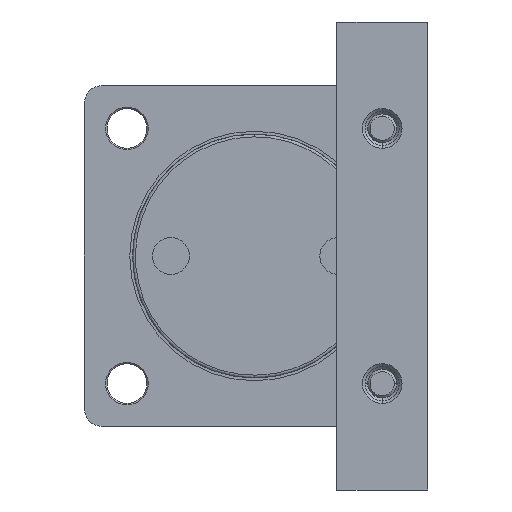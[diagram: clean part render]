
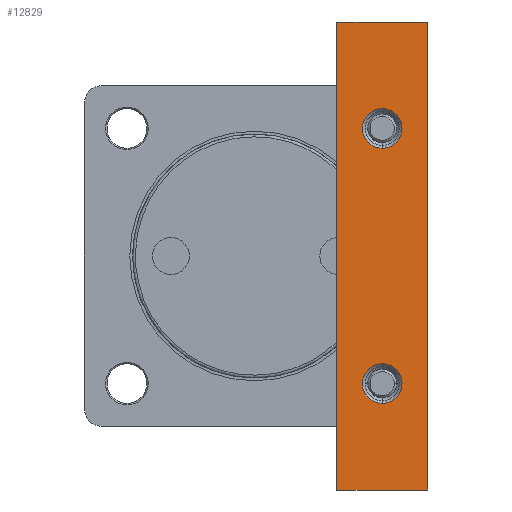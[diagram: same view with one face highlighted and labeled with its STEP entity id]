
A CAD part, left-side view. The second image highlights one B-rep face of the part: STEP entity #12829.
In plain terms, the highlighted planar face has unit normal (-1, 0, 0).
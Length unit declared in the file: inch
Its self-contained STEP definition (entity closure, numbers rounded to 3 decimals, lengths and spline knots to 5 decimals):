
#24 = VERTEX_POINT ( 'NONE', #2438 ) ;
#122 = CIRCLE ( 'NONE', #5920, 0.27559 ) ;
#378 = CARTESIAN_POINT ( 'NONE',  ( -2.1063, -1.77165, -2.04724 ) ) ;
#529 = VERTEX_POINT ( 'NONE', #8130 ) ;
#812 = VECTOR ( 'NONE', #10359, 39.37008 ) ;
#823 = CARTESIAN_POINT ( 'NONE',  ( -2.1063, -1.77165, -1.77165 ) ) ;
#847 = EDGE_LOOP ( 'NONE', ( #7625, #10760 ) ) ;
#998 = VERTEX_POINT ( 'NONE', #8312 ) ;
#1165 = EDGE_CURVE ( 'NONE', #7581, #9242, #12805, .T. ) ;
#1166 = AXIS2_PLACEMENT_3D ( 'NONE', #5603, #6747, #14389 ) ;
#1501 = DIRECTION ( 'NONE',  ( 0., 0., 1. ) ) ;
#1747 = EDGE_CURVE ( 'NONE', #5282, #4215, #11990, .T. ) ;
#1980 = DIRECTION ( 'NONE',  ( 0., 0., 1. ) ) ;
#2407 = CIRCLE ( 'NONE', #11681, 0.27559 ) ;
#2438 = CARTESIAN_POINT ( 'NONE',  ( -2.1063, -2.40157, -3.24803 ) ) ;
#2568 = CARTESIAN_POINT ( 'NONE',  ( -2.1063, -1.14173, 3.24803 ) ) ;
#2613 = CARTESIAN_POINT ( 'NONE',  ( -2.1063, -1.77165, 1.77165 ) ) ;
#2790 = CARTESIAN_POINT ( 'NONE',  ( -2.1063, -1.77165, 1.49606 ) ) ;
#3262 = CARTESIAN_POINT ( 'NONE',  ( -2.1063, -1.14173, -3.24803 ) ) ;
#3398 = ORIENTED_EDGE ( 'NONE', *, *, #5840, .T. ) ;
#3791 = CARTESIAN_POINT ( 'NONE',  ( -2.1063, -1.14173, -3.24803 ) ) ;
#3802 = DIRECTION ( 'NONE',  ( 0., 0., 1. ) ) ;
#3827 = DIRECTION ( 'NONE',  ( 0., -1., 0. ) ) ;
#4000 = ORIENTED_EDGE ( 'NONE', *, *, #11893, .T. ) ;
#4215 = VERTEX_POINT ( 'NONE', #3262 ) ;
#4309 = ORIENTED_EDGE ( 'NONE', *, *, #6755, .T. ) ;
#4511 = PLANE ( 'NONE',  #1166 ) ;
#4546 = DIRECTION ( 'NONE',  ( 0., 0., 1. ) ) ;
#4559 = DIRECTION ( 'NONE',  ( -1., 0., 0. ) ) ;
#4577 = CARTESIAN_POINT ( 'NONE',  ( -2.1063, -1.77165, 1.77165 ) ) ;
#5282 = VERTEX_POINT ( 'NONE', #9213 ) ;
#5367 = DIRECTION ( 'NONE',  ( 0., 0., 1. ) ) ;
#5382 = DIRECTION ( 'NONE',  ( -1., 0., 0. ) ) ;
#5418 = CARTESIAN_POINT ( 'NONE',  ( -2.1063, -1.77165, -1.77165 ) ) ;
#5603 = CARTESIAN_POINT ( 'NONE',  ( -2.1063, -2.40157, 3.24803 ) ) ;
#5840 = EDGE_CURVE ( 'NONE', #4215, #24, #14027, .T. ) ;
#5920 = AXIS2_PLACEMENT_3D ( 'NONE', #2613, #10403, #3802 ) ;
#6152 = VERTEX_POINT ( 'NONE', #378 ) ;
#6622 = EDGE_LOOP ( 'NONE', ( #13550, #3398, #4309, #4000 ) ) ;
#6747 = DIRECTION ( 'NONE',  ( 1., 0., 0. ) ) ;
#6755 = EDGE_CURVE ( 'NONE', #24, #529, #9050, .T. ) ;
#7175 = EDGE_CURVE ( 'NONE', #998, #6152, #2407, .T. ) ;
#7581 = VERTEX_POINT ( 'NONE', #8684 ) ;
#7625 = ORIENTED_EDGE ( 'NONE', *, *, #1165, .F. ) ;
#7960 = CIRCLE ( 'NONE', #9745, 0.27559 ) ;
#8130 = CARTESIAN_POINT ( 'NONE',  ( -2.1063, -2.40157, 3.24803 ) ) ;
#8312 = CARTESIAN_POINT ( 'NONE',  ( -2.1063, -1.77165, -1.49606 ) ) ;
#8684 = CARTESIAN_POINT ( 'NONE',  ( -2.1063, -1.77165, 2.04724 ) ) ;
#8730 = AXIS2_PLACEMENT_3D ( 'NONE', #4577, #4559, #4546 ) ;
#8737 = DIRECTION ( 'NONE',  ( -1., 0., 0. ) ) ;
#8759 = FACE_BOUND ( 'NONE', #847, .T. ) ;
#8822 = ORIENTED_EDGE ( 'NONE', *, *, #7175, .F. ) ;
#9050 = LINE ( 'NONE', #9938, #12643 ) ;
#9213 = CARTESIAN_POINT ( 'NONE',  ( -2.1063, -1.14173, 3.24803 ) ) ;
#9242 = VERTEX_POINT ( 'NONE', #2790 ) ;
#9333 = ORIENTED_EDGE ( 'NONE', *, *, #9504, .F. ) ;
#9468 = LINE ( 'NONE', #2568, #812 ) ;
#9504 = EDGE_CURVE ( 'NONE', #6152, #998, #7960, .T. ) ;
#9745 = AXIS2_PLACEMENT_3D ( 'NONE', #823, #8737, #1980 ) ;
#9938 = CARTESIAN_POINT ( 'NONE',  ( -2.1063, -2.40157, 3.24803 ) ) ;
#10212 = EDGE_LOOP ( 'NONE', ( #8822, #9333 ) ) ;
#10359 = DIRECTION ( 'NONE',  ( 0., 1., 0. ) ) ;
#10403 = DIRECTION ( 'NONE',  ( -1., 0., 0. ) ) ;
#10760 = ORIENTED_EDGE ( 'NONE', *, *, #11931, .F. ) ;
#11681 = AXIS2_PLACEMENT_3D ( 'NONE', #5418, #5382, #5367 ) ;
#11893 = EDGE_CURVE ( 'NONE', #529, #5282, #9468, .T. ) ;
#11931 = EDGE_CURVE ( 'NONE', #9242, #7581, #122, .T. ) ;
#11955 = VECTOR ( 'NONE', #12525, 39.37008 ) ;
#11990 = LINE ( 'NONE', #12619, #11955 ) ;
#12009 = VECTOR ( 'NONE', #3827, 39.37008 ) ;
#12525 = DIRECTION ( 'NONE',  ( 0., 0., -1. ) ) ;
#12619 = CARTESIAN_POINT ( 'NONE',  ( -2.1063, -1.14173, 3.24803 ) ) ;
#12643 = VECTOR ( 'NONE', #1501, 39.37008 ) ;
#12805 = CIRCLE ( 'NONE', #8730, 0.27559 ) ;
#12829 = ADVANCED_FACE ( 'NONE', ( #14238, #8759, #13890 ), #4511, .F. ) ;
#13550 = ORIENTED_EDGE ( 'NONE', *, *, #1747, .T. ) ;
#13890 = FACE_BOUND ( 'NONE', #10212, .T. ) ;
#14027 = LINE ( 'NONE', #3791, #12009 ) ;
#14238 = FACE_OUTER_BOUND ( 'NONE', #6622, .T. ) ;
#14389 = DIRECTION ( 'NONE',  ( 0., 0., -1. ) ) ;
